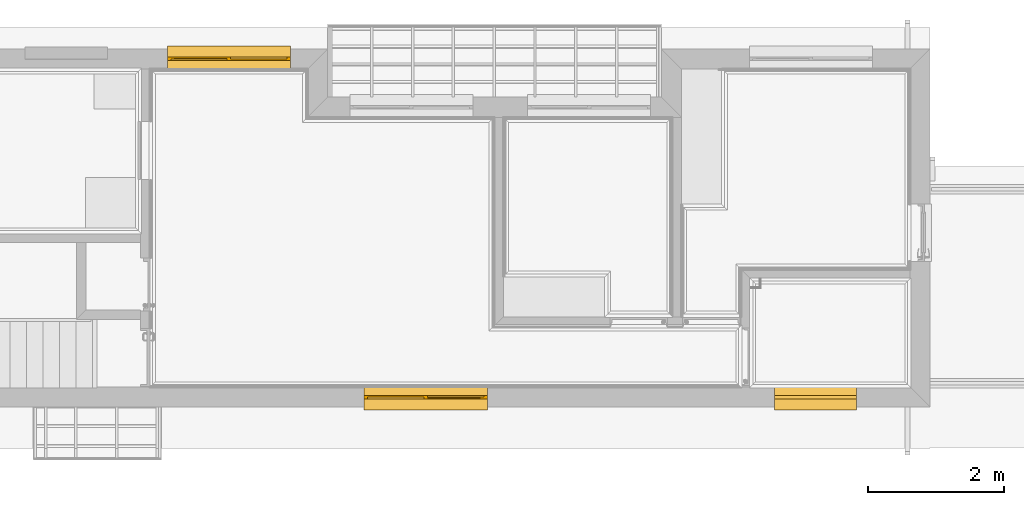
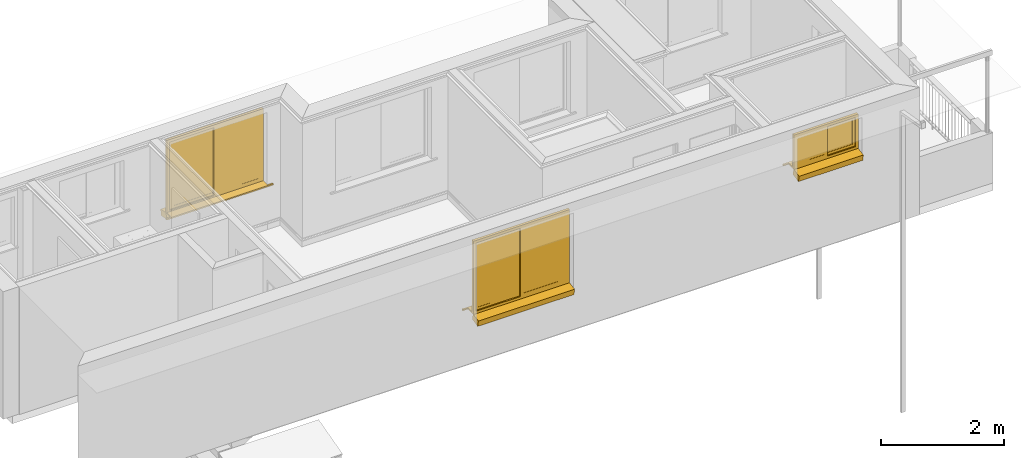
# One storey, part 10 of 18: 3 windows.
"""IFC2X3 building model written with IfcOpenShell, lengths in millimetres."""

from ifc_helpers import new_model, entity, si_unit, converted_unit, money_unit, direction, frame, origin_with_axes, place, context, subcontext, project, spatial, faceted_brep, source, transform, mapped, material, material_list, type_object, element, save


model = new_model("IFC2X3")

# Units and contexts
model_context = context("Model", 3, precision=1e-05, world=origin_with_axes(), true_north=direction((0.0, 1.0)))
body_context = subcontext(model_context, "Body", "Model", "MODEL_VIEW")
ifc_project = project(units=[si_unit("LENGTHUNIT", "METRE", prefix="MILLI"), si_unit("AREAUNIT", "SQUARE_METRE"), si_unit("VOLUMEUNIT", "CUBIC_METRE"), converted_unit("PLANEANGLEUNIT", "DEGREE", entity("IfcPlaneAngleMeasure", 0.0174532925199), si_unit("PLANEANGLEUNIT", "RADIAN"), dimensions=[0, 0, 0, 0, 0, 0, 0]), si_unit("SOLIDANGLEUNIT", "STERADIAN"), money_unit("AUD"), si_unit("TIMEUNIT", "SECOND"), si_unit("MASSUNIT", "GRAM"), si_unit("THERMODYNAMICTEMPERATUREUNIT", "DEGREE_CELSIUS"), si_unit("LUMINOUSINTENSITYUNIT", "LUMEN")], contexts=[model_context])

# Site, building, storey
site_placement = place(None, origin_with_axes())
site = spatial("IfcSite", under=ifc_project, at=site_placement, Name="Lot 1. East Hills", CompositionType="ELEMENT")
building_placement = place(site_placement, origin_with_axes())
building = spatial("IfcBuilding", under=site, at=building_placement, Name="Proposed Units 7 & 8", CompositionType="ELEMENT")
storey_placement = place(building_placement, frame((0.0, 0.0, 5859.0), z_axis=(0.0, 0.0, 1.0), x_axis=(1.0, 0.0, 0.0)))
storey = spatial("IfcBuildingStorey", under=building, at=storey_placement, Name="Level 1", CompositionType="ELEMENT", Elevation=5859.0)

# Windows
ifc_material_1 = material(Name="Empty Fill")
ifc_material_2 = material(Name="air space")
ifc_material_list = material_list([ifc_material_1, ifc_material_2, ifc_material_1, ifc_material_1, ifc_material_1, ifc_material_1, ifc_material_1, ifc_material_1, ifc_material_1, ifc_material_1])
window_style = type_object("IfcWindowStyle", Name="W2 Horizontal Slide 11", ConstructionType="NOTDEFINED", OperationType="DOUBLE_PANEL_VERTICAL", ParameterTakesPrecedence=False, Sizeable=False)
shared_shape_1 = source(origin_with_axes(), body_context, "Body", "Brep", [
    faceted_brep([(-905.0, -16.6666666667, 0.0), (905.0, -16.6666666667, 0.0), (905.0, 160.83778132, -31.2988233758), (-905.0, 160.83778132, -31.2988233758), (-905.0, -37.5044479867, -118.176930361), (905.0, -37.5044479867, -118.176930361), (905.0, 140.0, -149.475753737), (-905.0, 140.0, -149.475753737)], [[[0, 1, 2, 3]], [[4, 5, 1, 0]], [[1, 5, 6, 2]], [[3, 2, 6, 7]], [[0, 3, 7, 4]], [[7, 6, 5, 4]]]),
    faceted_brep([(905.0, -50.0, 0.0), (905.0, -50.0, 25.0), (905.0, -174.999998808, 25.0), (905.0, -174.999998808, 0.0), (-905.0, -50.0, 0.0), (-905.0, -50.0, 25.0), (-905.0, -174.999998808, 25.0), (-1005.0, -174.999998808, 25.0), (-1005.0, -204.999998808, 25.0), (1005.0, -204.999998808, 25.0), (1005.0, -174.999998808, 25.0), (1005.0, -174.999998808, 0.0), (1005.0, -204.999998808, 0.0), (-1005.0, -204.999998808, 0.0), (-1005.0, -174.999998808, 0.0), (-905.0, -174.999998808, 0.0)], [[[0, 1, 2, 3]], [[4, 5, 1, 0]], [[1, 5, 6, 7, 8, 9, 10, 2]], [[3, 2, 10, 11]], [[0, 3, 11, 12, 13, 14, 15, 4]], [[15, 6, 5, 4]], [[14, 7, 6, 15]], [[13, 8, 7, 14]], [[12, 9, 8, 13]], [[11, 10, 9, 12]]]),
    faceted_brep([(-855.0, 0.0, 50.0), (-855.0, 0.0, 1407.0), (-855.0, -50.0, 1407.0), (-855.0, -50.0, 50.0), (-905.0, 0.0, 50.0), (-905.0, 0.0, 1407.0), (-905.0, -50.0, 1407.0), (-905.0, -50.0, 50.0)], [[[0, 1, 2, 3]], [[0, 4, 5, 1]], [[1, 5, 6, 2]], [[3, 2, 6, 7]], [[4, 0, 3, 7]], [[5, 4, 7, 6]]]),
    faceted_brep([(905.0, 0.0, 50.0), (905.0, 0.0, 1407.0), (905.0, -50.0, 1407.0), (905.0, -50.0, 50.0), (855.0, 0.0, 50.0), (855.0, 0.0, 1407.0), (855.0, -50.0, 1407.0), (855.0, -50.0, 50.0)], [[[0, 1, 2, 3]], [[0, 4, 5, 1]], [[1, 5, 6, 2]], [[3, 2, 6, 7]], [[4, 0, 3, 7]], [[5, 4, 7, 6]]]),
    faceted_brep([(-905.0, 0.0, 0.0), (905.0, 0.0, 0.0), (905.0, -50.0, 0.0), (-905.0, -50.0, 0.0), (-905.0, 0.0, 50.0), (-855.0, 0.0, 50.0), (855.0, 0.0, 50.0), (905.0, 0.0, 50.0), (905.0, -50.0, 50.0), (855.0, -50.0, 50.0), (-855.0, -50.0, 50.0), (-905.0, -50.0, 50.0)], [[[0, 1, 2, 3]], [[0, 4, 5, 6, 7, 1]], [[1, 7, 8, 2]], [[3, 2, 8, 9, 10, 11]], [[4, 0, 3, 11]], [[5, 4, 11, 10]], [[6, 5, 10, 9]], [[7, 6, 9, 8]]]),
    faceted_brep([(-905.0, 0.0, 1407.0), (-855.0, 0.0, 1407.0), (-855.0, -50.0, 1407.0), (-905.0, -50.0, 1407.0), (-905.0, 0.0, 1457.0), (905.0, 0.0, 1457.0), (905.0, 0.0, 1407.0), (855.0, 0.0, 1407.0), (855.0, -50.0, 1407.0), (905.0, -50.0, 1407.0), (905.0, -50.0, 1457.0), (-905.0, -50.0, 1457.0)], [[[0, 1, 2, 3]], [[0, 4, 5, 6, 7, 1]], [[1, 7, 8, 2]], [[3, 2, 8, 9, 10, 11]], [[4, 0, 3, 11]], [[5, 4, 11, 10]], [[6, 5, 10, 9]], [[7, 6, 9, 8]]]),
    faceted_brep([(-805.0, 0.0, 100.0), (-805.0, 0.0, 1357.0), (-805.0, -25.0, 1357.0), (-805.0, -25.0, 100.0), (-855.0, 0.0, 100.0), (-855.0, 0.0, 1357.0), (-855.0, -25.0, 1357.0), (-855.0, -25.0, 100.0)], [[[0, 1, 2, 3]], [[0, 4, 5, 1]], [[1, 5, 6, 2]], [[3, 2, 6, 7]], [[4, 0, 3, 7]], [[5, 4, 7, 6]]]),
    faceted_brep([(25.0, 0.0, 100.0), (25.0, 0.0, 1357.0), (25.0, -25.0, 1357.0), (25.0, -25.0, 100.0), (-25.0, 0.0, 100.0), (-25.0, 0.0, 1357.0), (-25.0, -25.0, 1357.0), (-25.0, -25.0, 100.0)], [[[0, 1, 2, 3]], [[0, 4, 5, 1]], [[1, 5, 6, 2]], [[3, 2, 6, 7]], [[4, 0, 3, 7]], [[5, 4, 7, 6]]]),
    faceted_brep([(25.0, 0.0, 50.0), (25.0, 0.0, 100.0), (25.0, -25.0, 100.0), (25.0, -25.0, 50.0), (-855.0, 0.0, 50.0), (-855.0, 0.0, 100.0), (-805.0, 0.0, 100.0), (-25.0, 0.0, 100.0), (-25.0, -25.0, 100.0), (-805.0, -25.0, 100.0), (-855.0, -25.0, 100.0), (-855.0, -25.0, 50.0)], [[[0, 1, 2, 3]], [[0, 4, 5, 6, 7, 1]], [[1, 7, 8, 2]], [[3, 2, 8, 9, 10, 11]], [[4, 0, 3, 11]], [[5, 4, 11, 10]], [[6, 5, 10, 9]], [[7, 6, 9, 8]]]),
    faceted_brep([(-855.0, 0.0, 1407.0), (-855.0, 0.0, 1357.0), (-855.0, -25.0, 1357.0), (-855.0, -25.0, 1407.0), (25.0, 0.0, 1407.0), (25.0, 0.0, 1357.0), (-25.0, 0.0, 1357.0), (-805.0, 0.0, 1357.0), (-805.0, -25.0, 1357.0), (-25.0, -25.0, 1357.0), (25.0, -25.0, 1357.0), (25.0, -25.0, 1407.0)], [[[0, 1, 2, 3]], [[0, 4, 5, 6, 7, 1]], [[1, 7, 8, 2]], [[3, 2, 8, 9, 10, 11]], [[4, 0, 3, 11]], [[5, 4, 11, 10]], [[6, 5, 10, 9]], [[7, 6, 9, 8]]]),
    faceted_brep([(-805.0, -2.5, 100.0), (-25.0, -2.5, 100.0), (-25.0, -22.5, 100.0), (-805.0, -22.5, 100.0), (-805.0, -2.5, 1357.0), (-25.0, -2.5, 1357.0), (-25.0, -22.5, 1357.0), (-805.0, -22.5, 1357.0)], [[[0, 1, 2, 3]], [[0, 4, 5, 1]], [[1, 5, 6, 2]], [[3, 2, 6, 7]], [[4, 0, 3, 7]], [[5, 4, 7, 6]]]),
    faceted_brep([(25.0, -25.0, 100.0), (25.0, -25.0, 1357.0), (25.0, -50.0, 1357.0), (25.0, -50.0, 100.0), (-25.0, -25.0, 100.0), (-25.0, -25.0, 1357.0), (-25.0, -50.0, 1357.0), (-25.0, -50.0, 100.0)], [[[0, 1, 2, 3]], [[0, 4, 5, 1]], [[1, 5, 6, 2]], [[3, 2, 6, 7]], [[4, 0, 3, 7]], [[5, 4, 7, 6]]]),
    faceted_brep([(855.0, -25.0, 100.0), (855.0, -25.0, 1357.0), (855.0, -50.0, 1357.0), (855.0, -50.0, 100.0), (805.0, -25.0, 100.0), (805.0, -25.0, 1357.0), (805.0, -50.0, 1357.0), (805.0, -50.0, 100.0)], [[[0, 1, 2, 3]], [[0, 4, 5, 1]], [[1, 5, 6, 2]], [[3, 2, 6, 7]], [[4, 0, 3, 7]], [[5, 4, 7, 6]]]),
    faceted_brep([(855.0, -25.0, 50.0), (855.0, -25.0, 100.0), (855.0, -50.0, 100.0), (855.0, -50.0, 50.0), (-25.0, -25.0, 50.0), (-25.0, -25.0, 100.0), (25.0, -25.0, 100.0), (805.0, -25.0, 100.0), (805.0, -50.0, 100.0), (25.0, -50.0, 100.0), (-25.0, -50.0, 100.0), (-25.0, -50.0, 50.0)], [[[0, 1, 2, 3]], [[0, 4, 5, 6, 7, 1]], [[1, 7, 8, 2]], [[3, 2, 8, 9, 10, 11]], [[4, 0, 3, 11]], [[5, 4, 11, 10]], [[6, 5, 10, 9]], [[7, 6, 9, 8]]]),
    faceted_brep([(-25.0, -25.0, 1407.0), (-25.0, -25.0, 1357.0), (-25.0, -50.0, 1357.0), (-25.0, -50.0, 1407.0), (855.0, -25.0, 1407.0), (855.0, -25.0, 1357.0), (805.0, -25.0, 1357.0), (25.0, -25.0, 1357.0), (25.0, -50.0, 1357.0), (805.0, -50.0, 1357.0), (855.0, -50.0, 1357.0), (855.0, -50.0, 1407.0)], [[[0, 1, 2, 3]], [[0, 4, 5, 6, 7, 1]], [[1, 7, 8, 2]], [[3, 2, 8, 9, 10, 11]], [[4, 0, 3, 11]], [[5, 4, 11, 10]], [[6, 5, 10, 9]], [[7, 6, 9, 8]]]),
    faceted_brep([(25.0, -27.5, 100.0), (805.0, -27.5, 100.0), (805.0, -47.5, 100.0), (25.0, -47.5, 100.0), (25.0, -27.5, 1357.0), (805.0, -27.5, 1357.0), (805.0, -47.5, 1357.0), (25.0, -47.5, 1357.0)], [[[0, 1, 2, 3]], [[0, 4, 5, 1]], [[1, 5, 6, 2]], [[3, 2, 6, 7]], [[4, 0, 3, 7]], [[5, 4, 7, 6]]]),
])
window_1_placement = place(storey_placement, frame((4617.49999933, 5263.0, 857.0), z_axis=(0.0, 0.0, 1.0), x_axis=(1.0, 0.0, 0.0)))
element("IfcWindow", 1, at=window_1_placement, inside=storey, type_object=window_style, material=ifc_material_list, Name="W002 W2 Horizontal Slide 11 1.81 x 1.457 Window", OverallHeight=1457.0, OverallWidth=1810.0, context=body_context, shape_type="MappedRepresentation", body=[
    mapped(shared_shape_1, transform((905.0, -120.0, 0.0))),
])
shared_shape_2 = source(origin_with_axes(), body_context, "Body", "Brep", [
    faceted_brep([(-905.0, -16.6666666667, 0.0), (905.0, -16.6666666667, 0.0), (905.0, 160.83778132, -31.2988233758), (-905.0, 160.83778132, -31.2988233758), (-905.0, -37.5044479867, -118.176930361), (905.0, -37.5044479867, -118.176930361), (905.0, 140.0, -149.475753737), (-905.0, 140.0, -149.475753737)], [[[0, 1, 2, 3]], [[4, 5, 1, 0]], [[1, 5, 6, 2]], [[3, 2, 6, 7]], [[0, 3, 7, 4]], [[7, 6, 5, 4]]]),
    faceted_brep([(905.0, -50.0, 0.0), (905.0, -50.0, 25.0), (905.0, -174.999998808, 25.0), (905.0, -174.999998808, 0.0), (-905.0, -50.0, 0.0), (-905.0, -50.0, 25.0), (-905.0, -174.999998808, 25.0), (-1005.0, -174.999998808, 25.0), (-1005.0, -204.999998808, 25.0), (1005.0, -204.999998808, 25.0), (1005.0, -174.999998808, 25.0), (1005.0, -174.999998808, 0.0), (1005.0, -204.999998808, 0.0), (-1005.0, -204.999998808, 0.0), (-1005.0, -174.999998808, 0.0), (-905.0, -174.999998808, 0.0)], [[[0, 1, 2, 3]], [[4, 5, 1, 0]], [[1, 5, 6, 7, 8, 9, 10, 2]], [[3, 2, 10, 11]], [[0, 3, 11, 12, 13, 14, 15, 4]], [[15, 6, 5, 4]], [[14, 7, 6, 15]], [[13, 8, 7, 14]], [[12, 9, 8, 13]], [[11, 10, 9, 12]]]),
    faceted_brep([(-855.0, 0.0, 50.0), (-855.0, 0.0, 1407.0), (-855.0, -50.0, 1407.0), (-855.0, -50.0, 50.0), (-905.0, 0.0, 50.0), (-905.0, 0.0, 1407.0), (-905.0, -50.0, 1407.0), (-905.0, -50.0, 50.0)], [[[0, 1, 2, 3]], [[0, 4, 5, 1]], [[1, 5, 6, 2]], [[3, 2, 6, 7]], [[4, 0, 3, 7]], [[5, 4, 7, 6]]]),
    faceted_brep([(905.0, 0.0, 50.0), (905.0, 0.0, 1407.0), (905.0, -50.0, 1407.0), (905.0, -50.0, 50.0), (855.0, 0.0, 50.0), (855.0, 0.0, 1407.0), (855.0, -50.0, 1407.0), (855.0, -50.0, 50.0)], [[[0, 1, 2, 3]], [[0, 4, 5, 1]], [[1, 5, 6, 2]], [[3, 2, 6, 7]], [[4, 0, 3, 7]], [[5, 4, 7, 6]]]),
    faceted_brep([(-905.0, 0.0, 0.0), (905.0, 0.0, 0.0), (905.0, -50.0, 0.0), (-905.0, -50.0, 0.0), (-905.0, 0.0, 50.0), (-855.0, 0.0, 50.0), (855.0, 0.0, 50.0), (905.0, 0.0, 50.0), (905.0, -50.0, 50.0), (855.0, -50.0, 50.0), (-855.0, -50.0, 50.0), (-905.0, -50.0, 50.0)], [[[0, 1, 2, 3]], [[0, 4, 5, 6, 7, 1]], [[1, 7, 8, 2]], [[3, 2, 8, 9, 10, 11]], [[4, 0, 3, 11]], [[5, 4, 11, 10]], [[6, 5, 10, 9]], [[7, 6, 9, 8]]]),
    faceted_brep([(-905.0, 0.0, 1407.0), (-855.0, 0.0, 1407.0), (-855.0, -50.0, 1407.0), (-905.0, -50.0, 1407.0), (-905.0, 0.0, 1457.0), (905.0, 0.0, 1457.0), (905.0, 0.0, 1407.0), (855.0, 0.0, 1407.0), (855.0, -50.0, 1407.0), (905.0, -50.0, 1407.0), (905.0, -50.0, 1457.0), (-905.0, -50.0, 1457.0)], [[[0, 1, 2, 3]], [[0, 4, 5, 6, 7, 1]], [[1, 7, 8, 2]], [[3, 2, 8, 9, 10, 11]], [[4, 0, 3, 11]], [[5, 4, 11, 10]], [[6, 5, 10, 9]], [[7, 6, 9, 8]]]),
    faceted_brep([(-805.0, 0.0, 100.0), (-805.0, 0.0, 1357.0), (-805.0, -25.0, 1357.0), (-805.0, -25.0, 100.0), (-855.0, 0.0, 100.0), (-855.0, 0.0, 1357.0), (-855.0, -25.0, 1357.0), (-855.0, -25.0, 100.0)], [[[0, 1, 2, 3]], [[0, 4, 5, 1]], [[1, 5, 6, 2]], [[3, 2, 6, 7]], [[4, 0, 3, 7]], [[5, 4, 7, 6]]]),
    faceted_brep([(25.0, 0.0, 100.0), (25.0, 0.0, 1357.0), (25.0, -25.0, 1357.0), (25.0, -25.0, 100.0), (-25.0, 0.0, 100.0), (-25.0, 0.0, 1357.0), (-25.0, -25.0, 1357.0), (-25.0, -25.0, 100.0)], [[[0, 1, 2, 3]], [[0, 4, 5, 1]], [[1, 5, 6, 2]], [[3, 2, 6, 7]], [[4, 0, 3, 7]], [[5, 4, 7, 6]]]),
    faceted_brep([(25.0, 0.0, 50.0), (25.0, 0.0, 100.0), (25.0, -25.0, 100.0), (25.0, -25.0, 50.0), (-855.0, 0.0, 50.0), (-855.0, 0.0, 100.0), (-805.0, 0.0, 100.0), (-25.0, 0.0, 100.0), (-25.0, -25.0, 100.0), (-805.0, -25.0, 100.0), (-855.0, -25.0, 100.0), (-855.0, -25.0, 50.0)], [[[0, 1, 2, 3]], [[0, 4, 5, 6, 7, 1]], [[1, 7, 8, 2]], [[3, 2, 8, 9, 10, 11]], [[4, 0, 3, 11]], [[5, 4, 11, 10]], [[6, 5, 10, 9]], [[7, 6, 9, 8]]]),
    faceted_brep([(-855.0, 0.0, 1407.0), (-855.0, 0.0, 1357.0), (-855.0, -25.0, 1357.0), (-855.0, -25.0, 1407.0), (25.0, 0.0, 1407.0), (25.0, 0.0, 1357.0), (-25.0, 0.0, 1357.0), (-805.0, 0.0, 1357.0), (-805.0, -25.0, 1357.0), (-25.0, -25.0, 1357.0), (25.0, -25.0, 1357.0), (25.0, -25.0, 1407.0)], [[[0, 1, 2, 3]], [[0, 4, 5, 6, 7, 1]], [[1, 7, 8, 2]], [[3, 2, 8, 9, 10, 11]], [[4, 0, 3, 11]], [[5, 4, 11, 10]], [[6, 5, 10, 9]], [[7, 6, 9, 8]]]),
    faceted_brep([(-805.0, -2.5, 100.0), (-25.0, -2.5, 100.0), (-25.0, -22.5, 100.0), (-805.0, -22.5, 100.0), (-805.0, -2.5, 1357.0), (-25.0, -2.5, 1357.0), (-25.0, -22.5, 1357.0), (-805.0, -22.5, 1357.0)], [[[0, 1, 2, 3]], [[0, 4, 5, 1]], [[1, 5, 6, 2]], [[3, 2, 6, 7]], [[4, 0, 3, 7]], [[5, 4, 7, 6]]]),
    faceted_brep([(25.0, -25.0, 100.0), (25.0, -25.0, 1357.0), (25.0, -50.0, 1357.0), (25.0, -50.0, 100.0), (-25.0, -25.0, 100.0), (-25.0, -25.0, 1357.0), (-25.0, -50.0, 1357.0), (-25.0, -50.0, 100.0)], [[[0, 1, 2, 3]], [[0, 4, 5, 1]], [[1, 5, 6, 2]], [[3, 2, 6, 7]], [[4, 0, 3, 7]], [[5, 4, 7, 6]]]),
    faceted_brep([(855.0, -25.0, 100.0), (855.0, -25.0, 1357.0), (855.0, -50.0, 1357.0), (855.0, -50.0, 100.0), (805.0, -25.0, 100.0), (805.0, -25.0, 1357.0), (805.0, -50.0, 1357.0), (805.0, -50.0, 100.0)], [[[0, 1, 2, 3]], [[0, 4, 5, 1]], [[1, 5, 6, 2]], [[3, 2, 6, 7]], [[4, 0, 3, 7]], [[5, 4, 7, 6]]]),
    faceted_brep([(855.0, -25.0, 50.0), (855.0, -25.0, 100.0), (855.0, -50.0, 100.0), (855.0, -50.0, 50.0), (-25.0, -25.0, 50.0), (-25.0, -25.0, 100.0), (25.0, -25.0, 100.0), (805.0, -25.0, 100.0), (805.0, -50.0, 100.0), (25.0, -50.0, 100.0), (-25.0, -50.0, 100.0), (-25.0, -50.0, 50.0)], [[[0, 1, 2, 3]], [[0, 4, 5, 6, 7, 1]], [[1, 7, 8, 2]], [[3, 2, 8, 9, 10, 11]], [[4, 0, 3, 11]], [[5, 4, 11, 10]], [[6, 5, 10, 9]], [[7, 6, 9, 8]]]),
    faceted_brep([(-25.0, -25.0, 1407.0), (-25.0, -25.0, 1357.0), (-25.0, -50.0, 1357.0), (-25.0, -50.0, 1407.0), (855.0, -25.0, 1407.0), (855.0, -25.0, 1357.0), (805.0, -25.0, 1357.0), (25.0, -25.0, 1357.0), (25.0, -50.0, 1357.0), (805.0, -50.0, 1357.0), (855.0, -50.0, 1357.0), (855.0, -50.0, 1407.0)], [[[0, 1, 2, 3]], [[0, 4, 5, 6, 7, 1]], [[1, 7, 8, 2]], [[3, 2, 8, 9, 10, 11]], [[4, 0, 3, 11]], [[5, 4, 11, 10]], [[6, 5, 10, 9]], [[7, 6, 9, 8]]]),
    faceted_brep([(25.0, -27.5, 100.0), (805.0, -27.5, 100.0), (805.0, -47.5, 100.0), (25.0, -47.5, 100.0), (25.0, -27.5, 1357.0), (805.0, -27.5, 1357.0), (805.0, -47.5, 1357.0), (25.0, -47.5, 1357.0)], [[[0, 1, 2, 3]], [[0, 4, 5, 1]], [[1, 5, 6, 2]], [[3, 2, 6, 7]], [[4, 0, 3, 7]], [[5, 4, 7, 6]]]),
])
window_2_placement = place(storey_placement, frame((9320.47189681, -2.0103404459, 857.0), z_axis=(0.0, 0.0, 1.0), x_axis=(-0.999999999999, 1.10943373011e-06, 0.0)))
element("IfcWindow", 2, at=window_2_placement, inside=storey, type_object=window_style, material=ifc_material_list, Name="W008 W2 Horizontal Slide 11 1.81 x 1.457 Window", OverallHeight=1457.0, OverallWidth=1810.0, context=body_context, shape_type="MappedRepresentation", body=[
    mapped(shared_shape_2, transform((905.0, -120.0, 0.0))),
])
shared_shape_3 = source(origin_with_axes(), body_context, "Body", "Brep", [
    faceted_brep([(-605.0, -16.6666666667, 0.0), (605.0, -16.6666666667, 0.0), (605.0, 165.83778132, -32.1804582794), (-605.0, 165.83778132, -32.1804582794), (-605.0, -37.5044479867, -118.176930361), (605.0, -37.5044479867, -118.176930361), (605.0, 145.0, -150.357388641), (-605.0, 145.0, -150.357388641)], [[[0, 1, 2, 3]], [[4, 5, 1, 0]], [[1, 5, 6, 2]], [[3, 2, 6, 7]], [[0, 3, 7, 4]], [[7, 6, 5, 4]]]),
    faceted_brep([(605.0, -50.0, 0.0), (605.0, -50.0, 25.0), (605.0, -174.999998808, 25.0), (605.0, -174.999998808, 0.0), (-605.0, -50.0, 0.0), (-605.0, -50.0, 25.0), (-605.0, -174.999998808, 25.0), (-705.0, -174.999998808, 25.0), (-705.0, -204.999998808, 25.0), (705.0, -204.999998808, 25.0), (705.0, -174.999998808, 25.0), (705.0, -174.999998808, 0.0), (705.0, -204.999998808, 0.0), (-705.0, -204.999998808, 0.0), (-705.0, -174.999998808, 0.0), (-605.0, -174.999998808, 0.0)], [[[0, 1, 2, 3]], [[4, 5, 1, 0]], [[1, 5, 6, 7, 8, 9, 10, 2]], [[3, 2, 10, 11]], [[0, 3, 11, 12, 13, 14, 15, 4]], [[15, 6, 5, 4]], [[14, 7, 6, 15]], [[13, 8, 7, 14]], [[12, 9, 8, 13]], [[11, 10, 9, 12]]]),
    faceted_brep([(-555.0, -50.0, 50.0), (-555.0, 0.0, 50.0), (-555.0, 0.0, 635.0), (-555.0, -50.0, 635.0), (-605.0, -50.0, 50.0), (-605.0, 0.0, 50.0), (-605.0, 0.0, 635.0), (-605.0, -50.0, 635.0)], [[[0, 1, 2, 3]], [[4, 5, 1, 0]], [[1, 5, 6, 2]], [[3, 2, 6, 7]], [[0, 3, 7, 4]], [[7, 6, 5, 4]]]),
    faceted_brep([(605.0, -50.0, 50.0), (605.0, 0.0, 50.0), (605.0, 0.0, 635.0), (605.0, -50.0, 635.0), (555.0, -50.0, 50.0), (555.0, 0.0, 50.0), (555.0, 0.0, 635.0), (555.0, -50.0, 635.0)], [[[0, 1, 2, 3]], [[4, 5, 1, 0]], [[1, 5, 6, 2]], [[3, 2, 6, 7]], [[0, 3, 7, 4]], [[7, 6, 5, 4]]]),
    faceted_brep([(-605.0, -50.0, 0.0), (-605.0, 0.0, 0.0), (605.0, 0.0, 0.0), (605.0, -50.0, 0.0), (-605.0, -50.0, 50.0), (-605.0, 0.0, 50.0), (-555.0, 0.0, 50.0), (555.0, 0.0, 50.0), (605.0, 0.0, 50.0), (605.0, -50.0, 50.0), (555.0, -50.0, 50.0), (-555.0, -50.0, 50.0)], [[[0, 1, 2, 3]], [[4, 5, 1, 0]], [[1, 5, 6, 7, 8, 2]], [[3, 2, 8, 9]], [[0, 3, 9, 10, 11, 4]], [[11, 6, 5, 4]], [[10, 7, 6, 11]], [[9, 8, 7, 10]]]),
    faceted_brep([(-605.0, -50.0, 635.0), (-605.0, 0.0, 635.0), (-555.0, 0.0, 635.0), (-555.0, -50.0, 635.0), (-605.0, -50.0, 685.0), (-605.0, 0.0, 685.0), (605.0, 0.0, 685.0), (605.0, 0.0, 635.0), (555.0, 0.0, 635.0), (555.0, -50.0, 635.0), (605.0, -50.0, 635.0), (605.0, -50.0, 685.0)], [[[0, 1, 2, 3]], [[4, 5, 1, 0]], [[1, 5, 6, 7, 8, 2]], [[3, 2, 8, 9]], [[0, 3, 9, 10, 11, 4]], [[11, 6, 5, 4]], [[10, 7, 6, 11]], [[9, 8, 7, 10]]]),
    faceted_brep([(-505.0, -50.0, 100.0), (-505.0, -25.0, 100.0), (-505.0, -25.0, 585.0), (-505.0, -50.0, 585.0), (-555.0, -50.0, 100.0), (-555.0, -25.0, 100.0), (-555.0, -25.0, 585.0), (-555.0, -50.0, 585.0)], [[[0, 1, 2, 3]], [[4, 5, 1, 0]], [[1, 5, 6, 2]], [[3, 2, 6, 7]], [[0, 3, 7, 4]], [[7, 6, 5, 4]]]),
    faceted_brep([(25.0, -50.0, 100.0), (25.0, -25.0, 100.0), (25.0, -25.0, 585.0), (25.0, -50.0, 585.0), (-25.0, -50.0, 100.0), (-25.0, -25.0, 100.0), (-25.0, -25.0, 585.0), (-25.0, -50.0, 585.0)], [[[0, 1, 2, 3]], [[4, 5, 1, 0]], [[1, 5, 6, 2]], [[3, 2, 6, 7]], [[0, 3, 7, 4]], [[7, 6, 5, 4]]]),
    faceted_brep([(25.0, -50.0, 50.0), (25.0, -25.0, 50.0), (25.0, -25.0, 100.0), (25.0, -50.0, 100.0), (-555.0, -50.0, 50.0), (-555.0, -25.0, 50.0), (-555.0, -25.0, 100.0), (-505.0, -25.0, 100.0), (-25.0, -25.0, 100.0), (-25.0, -50.0, 100.0), (-505.0, -50.0, 100.0), (-555.0, -50.0, 100.0)], [[[0, 1, 2, 3]], [[4, 5, 1, 0]], [[1, 5, 6, 7, 8, 2]], [[3, 2, 8, 9]], [[0, 3, 9, 10, 11, 4]], [[11, 6, 5, 4]], [[10, 7, 6, 11]], [[9, 8, 7, 10]]]),
    faceted_brep([(-555.0, -50.0, 635.0), (-555.0, -25.0, 635.0), (-555.0, -25.0, 585.0), (-555.0, -50.0, 585.0), (25.0, -50.0, 635.0), (25.0, -25.0, 635.0), (25.0, -25.0, 585.0), (-25.0, -25.0, 585.0), (-505.0, -25.0, 585.0), (-505.0, -50.0, 585.0), (-25.0, -50.0, 585.0), (25.0, -50.0, 585.0)], [[[0, 1, 2, 3]], [[4, 5, 1, 0]], [[1, 5, 6, 7, 8, 2]], [[3, 2, 8, 9]], [[0, 3, 9, 10, 11, 4]], [[11, 6, 5, 4]], [[10, 7, 6, 11]], [[9, 8, 7, 10]]]),
    faceted_brep([(-505.0, -47.5, 100.0), (-505.0, -27.5, 100.0), (-25.0, -27.5, 100.0), (-25.0, -47.5, 100.0), (-505.0, -47.5, 585.0), (-505.0, -27.5, 585.0), (-25.0, -27.5, 585.0), (-25.0, -47.5, 585.0)], [[[0, 1, 2, 3]], [[4, 5, 1, 0]], [[1, 5, 6, 2]], [[3, 2, 6, 7]], [[0, 3, 7, 4]], [[7, 6, 5, 4]]]),
    faceted_brep([(25.0, -25.0, 100.0), (25.0, 0.0, 100.0), (25.0, 0.0, 585.0), (25.0, -25.0, 585.0), (-25.0, -25.0, 100.0), (-25.0, 0.0, 100.0), (-25.0, 0.0, 585.0), (-25.0, -25.0, 585.0)], [[[0, 1, 2, 3]], [[4, 5, 1, 0]], [[1, 5, 6, 2]], [[3, 2, 6, 7]], [[0, 3, 7, 4]], [[7, 6, 5, 4]]]),
    faceted_brep([(555.0, -25.0, 100.0), (555.0, 0.0, 100.0), (555.0, 0.0, 585.0), (555.0, -25.0, 585.0), (505.0, -25.0, 100.0), (505.0, 0.0, 100.0), (505.0, 0.0, 585.0), (505.0, -25.0, 585.0)], [[[0, 1, 2, 3]], [[4, 5, 1, 0]], [[1, 5, 6, 2]], [[3, 2, 6, 7]], [[0, 3, 7, 4]], [[7, 6, 5, 4]]]),
    faceted_brep([(555.0, -25.0, 50.0), (555.0, 0.0, 50.0), (555.0, 0.0, 100.0), (555.0, -25.0, 100.0), (-25.0, -25.0, 50.0), (-25.0, 0.0, 50.0), (-25.0, 0.0, 100.0), (25.0, 0.0, 100.0), (505.0, 0.0, 100.0), (505.0, -25.0, 100.0), (25.0, -25.0, 100.0), (-25.0, -25.0, 100.0)], [[[0, 1, 2, 3]], [[4, 5, 1, 0]], [[1, 5, 6, 7, 8, 2]], [[3, 2, 8, 9]], [[0, 3, 9, 10, 11, 4]], [[11, 6, 5, 4]], [[10, 7, 6, 11]], [[9, 8, 7, 10]]]),
    faceted_brep([(-25.0, -25.0, 635.0), (-25.0, 0.0, 635.0), (-25.0, 0.0, 585.0), (-25.0, -25.0, 585.0), (555.0, -25.0, 635.0), (555.0, 0.0, 635.0), (555.0, 0.0, 585.0), (505.0, 0.0, 585.0), (25.0, 0.0, 585.0), (25.0, -25.0, 585.0), (505.0, -25.0, 585.0), (555.0, -25.0, 585.0)], [[[0, 1, 2, 3]], [[4, 5, 1, 0]], [[1, 5, 6, 7, 8, 2]], [[3, 2, 8, 9]], [[0, 3, 9, 10, 11, 4]], [[11, 6, 5, 4]], [[10, 7, 6, 11]], [[9, 8, 7, 10]]]),
    faceted_brep([(25.0, -22.5, 100.0), (25.0, -2.5, 100.0), (505.0, -2.5, 100.0), (505.0, -22.5, 100.0), (25.0, -22.5, 585.0), (25.0, -2.5, 585.0), (505.0, -2.5, 585.0), (505.0, -22.5, 585.0)], [[[0, 1, 2, 3]], [[4, 5, 1, 0]], [[1, 5, 6, 2]], [[3, 2, 6, 7]], [[0, 3, 7, 4]], [[7, 6, 5, 4]]]),
])
window_3_placement = place(storey_placement, frame((13540.1182645, -2.01502186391, 1629.0), z_axis=(0.0, 0.0, 1.0), x_axis=(0.999999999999, -1.10943373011e-06, 0.0)))
element("IfcWindow", 3, at=window_3_placement, inside=storey, type_object=window_style, material=ifc_material_list, Name="W007 W2 Horizontal Slide 11 1.21 x 0.685 Window", OverallHeight=685.0, OverallWidth=1210.0, context=body_context, shape_type="MappedRepresentation", body=[
    mapped(shared_shape_3, transform((605.0, 120.0, 0.0), x_axis=(-1.0, 0.0, 0.0), y_axis=(0.0, -1.0, 0.0), z_axis=(0.0, 0.0, 1.0))),
])

save(model, "model.ifc")
